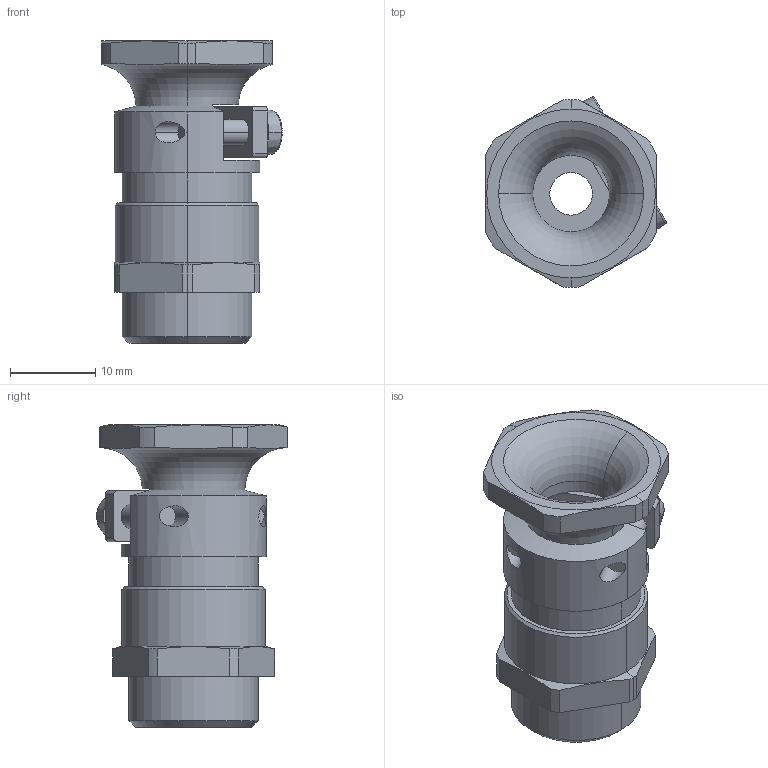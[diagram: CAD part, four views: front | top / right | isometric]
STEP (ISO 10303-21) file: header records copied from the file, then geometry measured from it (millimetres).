
FILE_DESCRIPTION (( 'STEP AP203' ), '1' );
FILE_NAME ('23.609.STEP', '2006-10-19T06:58:41', ( ' ' ), ( '' ), 'SwSTEP 2.0', 'SolidWorks 2005278', '' );
FILE_SCHEMA (( 'CONFIG_CONTROL_DESIGN' ));
Length unit declared in the file: millimetre
Products named in the file (1): 23.609
Bounding box: 21.15 x 22.37 x 35.5 mm (x, y, z)
Volume: 4762.9 mm3; surface area: 3941.2 mm2
Topology: 1 solids, 1 shells, 152 faces, 397 edges, 257 vertices
Faces by surface type: plane 84, cylinder 43, cone 15, torus 10
Entity records: 4955 total; most frequent: CARTESIAN_POINT 1081, DIRECTION 800, ORIENTED_EDGE 794, EDGE_CURVE 397, AXIS2_PLACEMENT_3D 290, VERTEX_POINT 257, VECTOR 220, LINE 220
